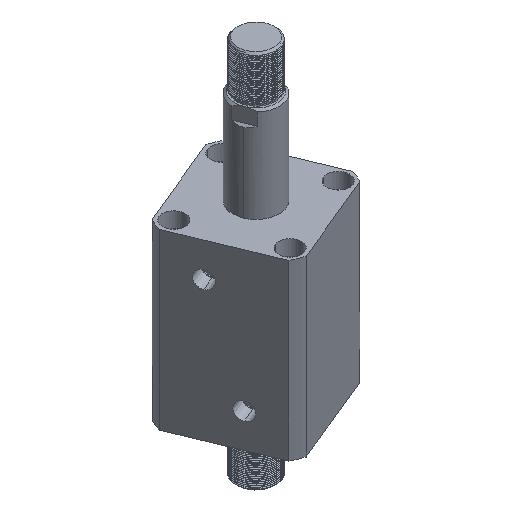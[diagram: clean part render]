
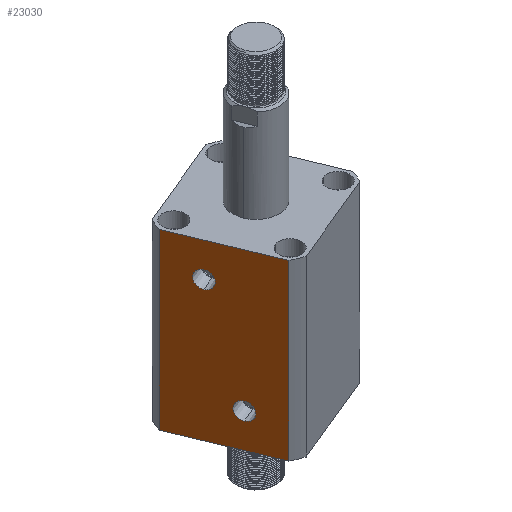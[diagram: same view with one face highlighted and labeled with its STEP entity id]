
A CAD part, isometric view. The second image highlights one B-rep face of the part: STEP entity #23030.
In plain terms, the highlighted planar face has unit normal (-0.924, -0.383, 0) as drawn and (0, -1, 0) by its records, which use the part's own axes.
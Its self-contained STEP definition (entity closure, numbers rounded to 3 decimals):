
#183 = ORIENTED_EDGE ( 'NONE', *, *, #23401, .F. ) ;
#357 = DIRECTION ( 'NONE',  ( 0., -1., 0. ) ) ;
#599 = AXIS2_PLACEMENT_3D ( 'NONE', #16436, #4277, #18477 ) ;
#987 = FACE_BOUND ( 'NONE', #5499, .T. ) ;
#1303 = CARTESIAN_POINT ( 'NONE',  ( -57., -57., 0. ) ) ;
#1586 = CARTESIAN_POINT ( 'NONE',  ( -47.971, -57., 0. ) ) ;
#1642 = DIRECTION ( 'NONE',  ( 0., 0., 1. ) ) ;
#1988 = VERTEX_POINT ( 'NONE', #18973 ) ;
#3204 = AXIS2_PLACEMENT_3D ( 'NONE', #11895, #26014, #13944 ) ;
#3585 = EDGE_CURVE ( 'NONE', #5342, #19466, #4812, .T. ) ;
#3697 = EDGE_CURVE ( 'NONE', #19466, #4746, #8949, .T. ) ;
#3750 = VECTOR ( 'NONE', #23686, 1000. ) ;
#4277 = DIRECTION ( 'NONE',  ( 0., -1., 0. ) ) ;
#4746 = VERTEX_POINT ( 'NONE', #6859 ) ;
#4812 = LINE ( 'NONE', #13771, #14997 ) ;
#5298 = CIRCLE ( 'NONE', #21068, 8.428 ) ;
#5342 = VERTEX_POINT ( 'NONE', #1586 ) ;
#5499 = EDGE_LOOP ( 'NONE', ( #9376, #22637 ) ) ;
#5577 = EDGE_CURVE ( 'NONE', #1988, #12040, #11031, .T. ) ;
#5818 = VERTEX_POINT ( 'NONE', #12685 ) ;
#6092 = CARTESIAN_POINT ( 'NONE',  ( 15., -57., 33. ) ) ;
#6225 = EDGE_CURVE ( 'NONE', #12040, #1988, #5298, .T. ) ;
#6859 = CARTESIAN_POINT ( 'NONE',  ( 47.971, -57., 168. ) ) ;
#7512 = ORIENTED_EDGE ( 'NONE', *, *, #23207, .F. ) ;
#7663 = PLANE ( 'NONE',  #17299 ) ;
#8141 = DIRECTION ( 'NONE',  ( 0., 0., -1. ) ) ;
#8949 = LINE ( 'NONE', #13938, #14341 ) ;
#9376 = ORIENTED_EDGE ( 'NONE', *, *, #5577, .F. ) ;
#9527 = CARTESIAN_POINT ( 'NONE',  ( 47.971, -57., -132. ) ) ;
#9709 = CARTESIAN_POINT ( 'NONE',  ( -57., -57., 168. ) ) ;
#11031 = CIRCLE ( 'NONE', #18861, 8.428 ) ;
#11193 = VECTOR ( 'NONE', #15481, 1000. ) ;
#11747 = DIRECTION ( 'NONE',  ( 0., 0., 1. ) ) ;
#11895 = CARTESIAN_POINT ( 'NONE',  ( -15., -57., 135. ) ) ;
#11918 = ORIENTED_EDGE ( 'NONE', *, *, #13356, .T. ) ;
#12040 = VERTEX_POINT ( 'NONE', #20469 ) ;
#12443 = CARTESIAN_POINT ( 'NONE',  ( 15., -57., 33. ) ) ;
#12685 = CARTESIAN_POINT ( 'NONE',  ( -15., -57., 143.428 ) ) ;
#13356 = EDGE_CURVE ( 'NONE', #5342, #25485, #16585, .T. ) ;
#13771 = CARTESIAN_POINT ( 'NONE',  ( -47.971, -57., -132. ) ) ;
#13843 = EDGE_LOOP ( 'NONE', ( #20850, #11918, #7512, #25729 ) ) ;
#13938 = CARTESIAN_POINT ( 'NONE',  ( -57., -57., 168. ) ) ;
#13944 = DIRECTION ( 'NONE',  ( 0., 0., -1. ) ) ;
#14341 = VECTOR ( 'NONE', #22071, 1000. ) ;
#14502 = CARTESIAN_POINT ( 'NONE',  ( -47.971, -57., 168. ) ) ;
#14516 = DIRECTION ( 'NONE',  ( 0., 0., -1. ) ) ;
#14589 = LINE ( 'NONE', #9527, #3750 ) ;
#14607 = EDGE_CURVE ( 'NONE', #5818, #15182, #24750, .T. ) ;
#14997 = VECTOR ( 'NONE', #1642, 1000. ) ;
#15182 = VERTEX_POINT ( 'NONE', #18089 ) ;
#15238 = FACE_OUTER_BOUND ( 'NONE', #13843, .T. ) ;
#15481 = DIRECTION ( 'NONE',  ( 1., 0., 0. ) ) ;
#16436 = CARTESIAN_POINT ( 'NONE',  ( -15., -57., 135. ) ) ;
#16585 = LINE ( 'NONE', #1303, #11193 ) ;
#17299 = AXIS2_PLACEMENT_3D ( 'NONE', #9709, #23867, #11747 ) ;
#18089 = CARTESIAN_POINT ( 'NONE',  ( -15., -57., 126.572 ) ) ;
#18185 = EDGE_LOOP ( 'NONE', ( #183, #19207 ) ) ;
#18477 = DIRECTION ( 'NONE',  ( 0., 0., -1. ) ) ;
#18861 = AXIS2_PLACEMENT_3D ( 'NONE', #12443, #357, #14516 ) ;
#18973 = CARTESIAN_POINT ( 'NONE',  ( 15., -57., 24.572 ) ) ;
#19207 = ORIENTED_EDGE ( 'NONE', *, *, #14607, .F. ) ;
#19466 = VERTEX_POINT ( 'NONE', #14502 ) ;
#20292 = DIRECTION ( 'NONE',  ( 0., -1., 0. ) ) ;
#20469 = CARTESIAN_POINT ( 'NONE',  ( 15., -57., 41.428 ) ) ;
#20850 = ORIENTED_EDGE ( 'NONE', *, *, #3585, .F. ) ;
#21068 = AXIS2_PLACEMENT_3D ( 'NONE', #6092, #20292, #8141 ) ;
#22071 = DIRECTION ( 'NONE',  ( 1., 0., 0. ) ) ;
#22637 = ORIENTED_EDGE ( 'NONE', *, *, #6225, .F. ) ;
#23030 = ADVANCED_FACE ( 'NONE', ( #25916, #987, #15238 ), #7663, .F. ) ;
#23207 = EDGE_CURVE ( 'NONE', #4746, #25485, #14589, .T. ) ;
#23401 = EDGE_CURVE ( 'NONE', #15182, #5818, #24664, .T. ) ;
#23686 = DIRECTION ( 'NONE',  ( 0., 0., -1. ) ) ;
#23867 = DIRECTION ( 'NONE',  ( 0., 1., 0. ) ) ;
#24410 = CARTESIAN_POINT ( 'NONE',  ( 47.971, -57., 0. ) ) ;
#24664 = CIRCLE ( 'NONE', #3204, 8.428 ) ;
#24750 = CIRCLE ( 'NONE', #599, 8.428 ) ;
#25485 = VERTEX_POINT ( 'NONE', #24410 ) ;
#25729 = ORIENTED_EDGE ( 'NONE', *, *, #3697, .F. ) ;
#25916 = FACE_BOUND ( 'NONE', #18185, .T. ) ;
#26014 = DIRECTION ( 'NONE',  ( 0., -1., 0. ) ) ;
